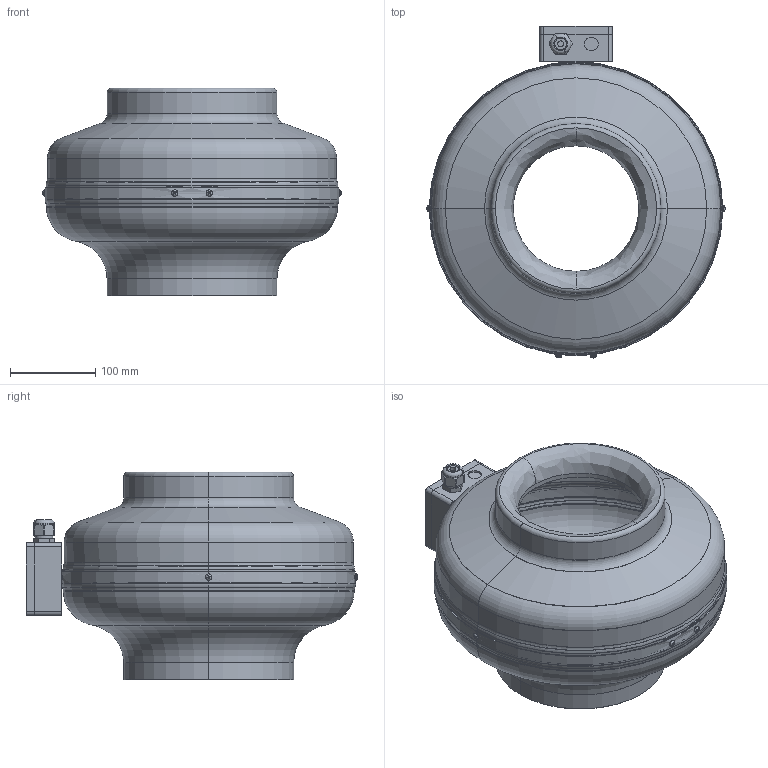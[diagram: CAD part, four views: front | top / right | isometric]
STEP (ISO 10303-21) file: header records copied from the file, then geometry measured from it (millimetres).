
FILE_DESCRIPTION (( 'STEP AP203' ), '1' );
FILE_NAME ('136396-00_RS200L10.STEP', '2016-03-18T11:56:59', ( '' ), ( '' ), 'SwSTEP 2.0', 'SolidWorks 2012', '' );
FILE_SCHEMA (( 'CONFIG_CONTROL_DESIGN' ));
Length unit declared in the file: millimetre
Products named in the file (1): 136396-00_RS200L10
Bounding box: 349.68 x 388.84 x 243.5 mm (x, y, z)
Surface area: 619793.6 mm2 (no closed solid volume)
Topology: 0 solids, 13 shells, 192 faces, 626 edges, 436 vertices
Faces by surface type: cylinder 68, plane 57, torus 54, cone 11, bspline 2
Entity records: 8476 total; most frequent: CARTESIAN_POINT 3019, DIRECTION 1152, ORIENTED_EDGE 1005, EDGE_CURVE 626, AXIS2_PLACEMENT_3D 471, VERTEX_POINT 436, CIRCLE 280, EDGE_LOOP 229
